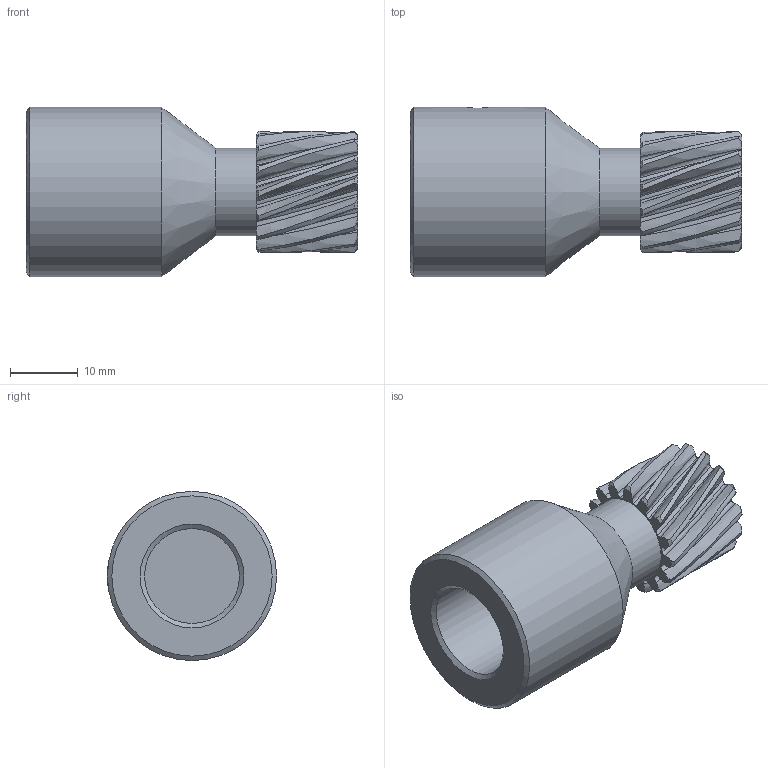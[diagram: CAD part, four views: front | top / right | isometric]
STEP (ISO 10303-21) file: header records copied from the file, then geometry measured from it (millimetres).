
FILE_DESCRIPTION(('STEP AP214'), '1');
FILE_NAME('GH1-T15D14 - Øåñòåðíÿ', '', ('UNSPECIFIED'), ('UNSPECIFIED'), 'ASCON STEP Converter 1.3', 'ASCON Math Kernel', '');
FILE_SCHEMA(('AUTOMOTIVE_DESIGN { 1 0 10303 214 3 1 1}'));
Length unit declared in the file: millimetre
Products named in the file (1): GH1-T15D14
Bounding box: 49 x 25 x 25 mm (x, y, z)
Volume: 12722 mm3; surface area: 5526.5 mm2
Topology: 1 solids, 1 shells, 161 faces, 468 edges, 312 vertices
Faces by surface type: bspline 90, cylinder 34, cone 33, plane 4
Full cylindrical faces by diameter (mm): 3.242 x1, 13 x1, 14 x1, 25 x1
Entity records: 13841 total; most frequent: CARTESIAN_POINT 9115, ORIENTED_EDGE 920, EDGE_CURVE 460, B_SPLINE_CURVE_WITH_KNOTS 362, DIRECTION 340, VERTEX_POINT 310, EDGE_LOOP 172, AXIS2_PLACEMENT_3D 170
